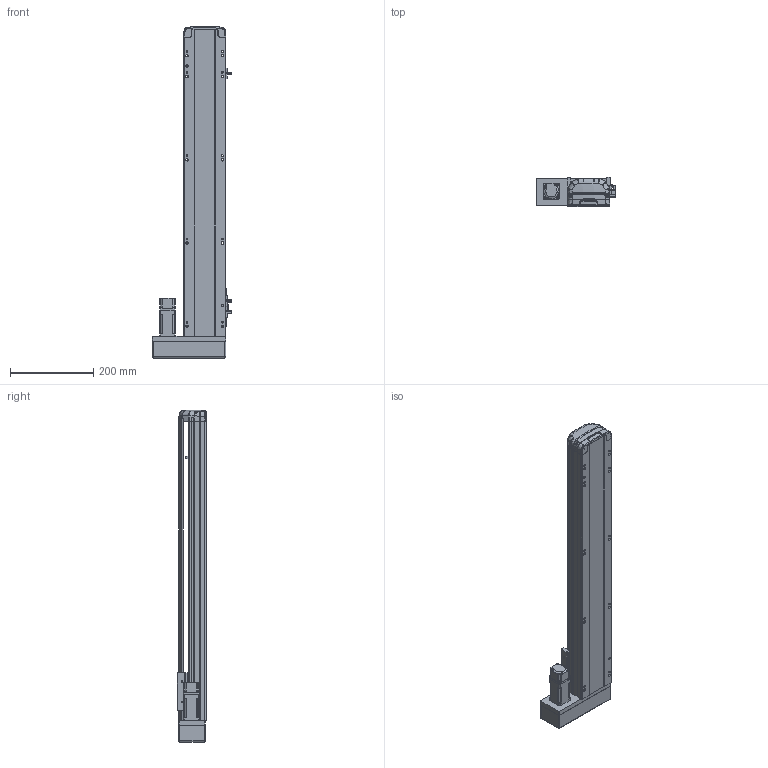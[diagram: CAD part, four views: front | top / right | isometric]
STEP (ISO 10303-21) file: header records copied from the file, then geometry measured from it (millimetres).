
FILE_DESCRIPTION (( 'STEP AP214' ), '1' );
FILE_NAME ('RTH10-XX-550-L-M10-C4.STEP', '2025-10-25T05:35:21', ( 'Microsoft' ), ( 'Microsoft' ), 'SwSTEP 2.0', 'SolidWorks 2018', '' );
FILE_SCHEMA (( 'AUTOMOTIVE_DESIGN' ));
Length unit declared in the file: millimetre
Products named in the file (10): RTH10-XX-550-L-M10-C4; N_RTH12-GY-001P^RTH10-XX-XX-L-M10-C4; N_RTH12-GY-004-賑釱^RTH10-XX-XX-L-M10-C4; N_RTH12-L-018-裔赽^RTH10-XX-XX-L-M10-C4; N_RTH12-M-007P-奻裔^RTH10-XX-XX-L-M10-C4; N_P10^RTH10-XX-XX-L-M10-C4; N_RTH12-M-011P-臏倰第菁釱^RTH10-XX-XX-L-M10-C4; N_OMRON EE-SX672 传感器^RTH10-XX-XX-L-M10-C4; N_RTH12-L-008萇儂啣^RTH10-XX-XX-L-M10-C4; N_RTH13-L-012覜茼え俋离^RTH10-XX-XX-L-M10-C4
Assembly tree (11 placements, depth 2):
  RTH10-XX-550-L-M10-C4
    N_RTH12-M-011P-臏倰第菁釱^RTH10-XX-XX-L-M10-C4
    N_RTH13-L-012覜茼え俋离^RTH10-XX-XX-L-M10-C4
    N_OMRON EE-SX672 传感器^RTH10-XX-XX-L-M10-C4  x3
    N_P10^RTH10-XX-XX-L-M10-C4
    N_RTH12-M-007P-奻裔^RTH10-XX-XX-L-M10-C4
    N_RTH12-L-008萇儂啣^RTH10-XX-XX-L-M10-C4
    N_RTH12-L-018-裔赽^RTH10-XX-XX-L-M10-C4
    N_RTH12-GY-004-賑釱^RTH10-XX-XX-L-M10-C4
    N_RTH12-GY-001P^RTH10-XX-XX-L-M10-C4
Bounding box: 190 x 70 x 797.14 mm (x, y, z)
Volume: 3561785.7 mm3; surface area: 554226.2 mm2
Topology: 10 solids, 12 shells, 1920 faces, 5356 edges, 3513 vertices
Faces by surface type: plane 947, bspline 472, cylinder 466, cone 29, sphere 4, torus 2
Entity records: 57748 total; most frequent: CARTESIAN_POINT 23089, ORIENTED_EDGE 7784, DIRECTION 5958, EDGE_CURVE 3898, VERTEX_POINT 2557, VECTOR 2042, LINE 2042, AXIS2_PLACEMENT_3D 1958
